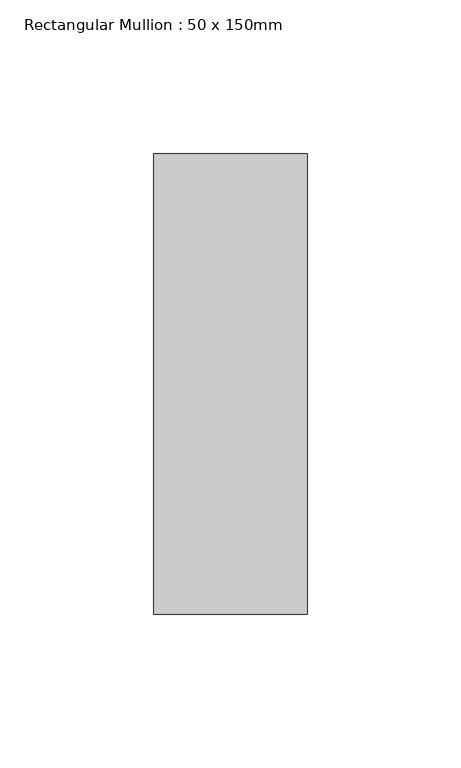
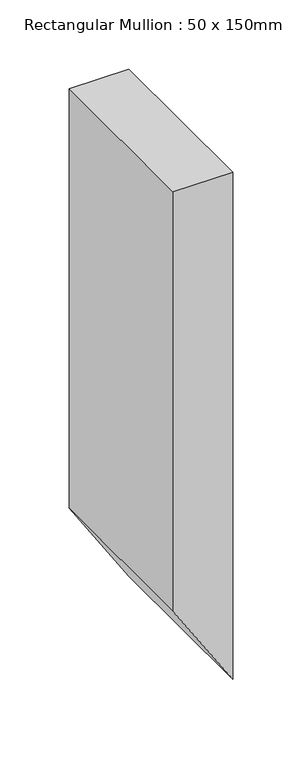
"""IFC4 building model written with IfcOpenShell, lengths in millimetres: member geometry, Rectangular Mullion : 50 x 150mm."""

import ifcopenshell
import ifcopenshell.guid

model = None  # the IFC model being written
_history = None  # IfcOwnerHistory: only IFC2X3 demands one
_inside = {}  # id of a spatial element -> (the spatial element, [elements in it])
_under = {}  # id of a project, library or spatial element -> (it, [spatial elements below it])
_declared = {}  # id of a project -> (the project, [libraries it declares])
_typed = {}  # id of a type object -> (the type object, [elements of that type])
_made_of = {}  # id of a material, layer set ... -> (it, [elements and type objects made of it])


def new_model(schema):
    """Start an empty IFC model of exactly this schema.

    Asked for "IFC4X3", IfcOpenShell would pick the latest addendum, in which some entities
    have other attributes; the version numbers below select the first issue.
    IFC2X3 requires an IfcOwnerHistory on every rooted entity: one is made here for all.
    """
    global model, _history
    if schema == "IFC4X3":
        model = ifcopenshell.file(schema_version=(4, 3, 0, 0))
    else:
        model = ifcopenshell.file(schema=schema)
    _inside.clear()
    _under.clear()
    _declared.clear()
    _typed.clear()
    _made_of.clear()
    _history = None
    if model.schema == "IFC2X3":
        org = make("IfcOrganization", Name="unknown")
        user = make(
            "IfcPersonAndOrganization",
            ThePerson=make("IfcPerson", FamilyName="unknown"),
            TheOrganization=org,
        )
        app = make(
            "IfcApplication",
            ApplicationDeveloper=org,
            Version="unknown",
            ApplicationFullName="unknown",
            ApplicationIdentifier="unknown",
        )
        _history = make(
            "IfcOwnerHistory",
            OwningUser=user,
            OwningApplication=app,
            ChangeAction="ADDED",
            CreationDate=0,
        )
    return model


def make(cls, **values):
    """One entity of the class cls with the attributes given. An attribute that is None is left unset."""
    return model.create_entity(
        cls, **{name: value for name, value in values.items() if value is not None}
    )


def rooted(cls, **values):
    """An entity with a GlobalId (a new one), such as an element, a storey or a relation."""
    return make(cls, GlobalId=ifcopenshell.guid.new(), OwnerHistory=_history, **values)


def si_unit(unit_type, name, prefix=None):
    """IfcSIUnit, for example si_unit("LENGTHUNIT", "METRE", prefix="MILLI")."""
    return make("IfcSIUnit", UnitType=unit_type, Prefix=prefix, Name=name)


def assignment(units):
    """IfcUnitAssignment: the units of a project."""
    return None if units is None else make("IfcUnitAssignment", Units=units)


def point(xyz):
    """IfcCartesianPoint."""
    return None if xyz is None else make("IfcCartesianPoint", Coordinates=xyz)


def direction(xyz):
    """IfcDirection."""
    return None if xyz is None else make("IfcDirection", DirectionRatios=xyz)


def frame(location, z_axis=None, x_axis=None):
    """IfcAxis2Placement3D, a coordinate frame: its origin and axes. An axis left out is left unset."""
    return make(
        "IfcAxis2Placement3D",
        Location=point(location),
        Axis=direction(z_axis),
        RefDirection=direction(x_axis),
    )


def origin():
    """The frame at (0, 0, 0) with its axes left unset."""
    return frame((0.0, 0.0, 0.0))


def place(relative_to, where):
    """IfcLocalPlacement: puts the frame where relative to a parent placement (None: the world)."""
    return make(
        "IfcLocalPlacement", PlacementRelTo=relative_to, RelativePlacement=where
    )


def context(
    kind, dimensions, precision=None, world=None, true_north=None, identifier=None
):
    """IfcGeometricRepresentationContext, for example the 3D "Model" context."""
    return make(
        "IfcGeometricRepresentationContext",
        ContextIdentifier=identifier,
        ContextType=kind,
        CoordinateSpaceDimension=dimensions,
        Precision=precision,
        WorldCoordinateSystem=world,
        TrueNorth=true_north,
    )


def project(units=None, contexts=None):
    """IfcProject with its units and contexts."""
    return rooted(
        "IfcProject",
        Name="project",
        RepresentationContexts=contexts,
        UnitsInContext=assignment(units),
    )


def spatial(cls, under=None, at=None, **own):
    """A site, building, storey or space (cls), placed at a placement, below another one or the project."""
    s = rooted(cls, ObjectPlacement=at, **own)
    if under is not None:
        _under.setdefault(under.id(), (under, []))[1].append(s)
    return s


def polyline(points):
    """IfcPolyline through the points."""
    return make("IfcPolyline", Points=[point(p) for p in points])


def outline(outer, holes=None, kind="AREA"):
    """IfcArbitraryClosedProfileDef: a profile drawn as a closed curve; with holes, ...WithVoids."""
    if holes is None:
        return make("IfcArbitraryClosedProfileDef", ProfileType=kind, OuterCurve=outer)
    return make(
        "IfcArbitraryProfileDefWithVoids",
        ProfileType=kind,
        OuterCurve=outer,
        InnerCurves=holes,
    )


def extrude(swept, where, along, depth):
    """IfcExtrudedAreaSolid: the profile swept, set in the frame where, extruded along a direction by depth."""
    return make(
        "IfcExtrudedAreaSolid",
        SweptArea=swept,
        Position=where,
        ExtrudedDirection=direction(along),
        Depth=depth,
    )


def shape(context_of_items, identifier, shape_type, items):
    """IfcShapeRepresentation: the items that make up one representation, for example the "Body"."""
    return make(
        "IfcShapeRepresentation",
        ContextOfItems=context_of_items,
        RepresentationIdentifier=identifier,
        RepresentationType=shape_type,
        Items=items,
    )


def source(mapping_origin, context_of_items, identifier, shape_type, items):
    """IfcRepresentationMap: a shape defined once, which mapped items show again and again."""
    return make(
        "IfcRepresentationMap",
        MappingOrigin=mapping_origin,
        MappedRepresentation=shape(context_of_items, identifier, shape_type, items),
    )


def transform(
    local_origin,
    x_axis=None,
    y_axis=None,
    z_axis=None,
    scale=None,
    scale2=None,
    scale3=None,
    uniform=True,
):
    """IfcCartesianTransformationOperator3D, or its non-uniform kind. x_axis, y_axis, z_axis: its Axis1, 2, 3."""
    if uniform:
        return make(
            "IfcCartesianTransformationOperator3D",
            Axis1=direction(x_axis),
            Axis2=direction(y_axis),
            LocalOrigin=point(local_origin),
            Scale=scale,
            Axis3=direction(z_axis),
        )
    return make(
        "IfcCartesianTransformationOperator3DnonUniform",
        Axis1=direction(x_axis),
        Axis2=direction(y_axis),
        LocalOrigin=point(local_origin),
        Scale=scale,
        Axis3=direction(z_axis),
        Scale2=scale2,
        Scale3=scale3,
    )


def mapped(mapping_source, mapping_target):
    """IfcMappedItem: shows the shape of a source again, moved by a transform."""
    return make(
        "IfcMappedItem", MappingSource=mapping_source, MappingTarget=mapping_target
    )


def made_of(thing, what):
    """Note that an element or type object is made of a material, layer set ...; save() writes the relation."""
    if what is not None:
        _made_of.setdefault(what.id(), (what, []))[1].append(thing)
    return thing


def element(
    cls,
    number,
    at=None,
    inside=None,
    cuts=None,
    type_object=None,
    material=None,
    context=None,
    identifier="Body",
    shape_type=None,
    held_by="IfcProductDefinitionShape",
    body=None,
    shapes=None,
    **own,
):
    """One element of the class cls, such as IfcWall. Its Tag is "e" and its number.

    at: its placement. inside: the storey or other place that contains it. cuts: it is an
    opening in that element (IfcRelVoidsElement). A single representation is given by context,
    identifier, shape_type and body (its items); several are given by shapes. held_by: the class
    of the entity that holds the representations. save() writes the other relations.
    """
    e = rooted(cls, Tag="e%d" % number, ObjectPlacement=at, **own)
    if body is not None:
        shapes = [shape(context, identifier, shape_type, body)]
    if shapes is not None:
        e.Representation = make(held_by, Representations=shapes)
    if inside is not None:
        _inside.setdefault(inside.id(), (inside, []))[1].append(e)
    if cuts is not None:
        rooted(
            "IfcRelVoidsElement", RelatingBuildingElement=cuts, RelatedOpeningElement=e
        )
    if type_object is not None:
        _typed.setdefault(type_object.id(), (type_object, []))[1].append(e)
    return made_of(e, material)


def aggregate(whole, parts):
    """IfcRelAggregates: a whole, such as a stair, and the parts it consists of."""
    return rooted("IfcRelAggregates", RelatingObject=whole, RelatedObjects=parts)


def save(model, path):
    """Write the relations noted so far, then the file.

    IfcRelAggregates (storeys below a building ...), IfcRelContainedInSpatialStructure (elements
    in a storey), IfcRelDefinesByType, IfcRelAssociatesMaterial and IfcRelDeclares: one each for
    every whole, place, type object, material and project.
    """
    for whole, parts in _under.values():
        aggregate(whole, parts)
    for where, things in _inside.values():
        rooted(
            "IfcRelContainedInSpatialStructure",
            RelatedElements=things,
            RelatingStructure=where,
        )
    for kind, things in _typed.values():
        rooted("IfcRelDefinesByType", RelatedObjects=things, RelatingType=kind)
    for what, things in _made_of.values():
        rooted("IfcRelAssociatesMaterial", RelatedObjects=things, RelatingMaterial=what)
    for by, libraries in _declared.values():
        rooted("IfcRelDeclares", RelatingContext=by, RelatedDefinitions=libraries)
    model.write(path)


def rectangular_mullion_50_x_150mm_b07a717a(model_context):
    return source(origin(), model_context, "Body", "SweptSolid", [
        extrude(outline(polyline([(0.0, 25.0), (0.0, -25.0), (-370.3486549, -25.0), (-447.6097598, 25.0), (0.0, 25.0)])), frame((0.0, -75.0, 0.0), z_axis=(0.0, 1.0, 0.0), x_axis=(0.0, 0.0, 1.0)), (0.0, 0.0, 1.0), 150.0),
    ])


if __name__ == "__main__":
    model = new_model("IFC4")
    model_context = context("Model", 3, world=origin())
    ifc_project = project(units=[si_unit("LENGTHUNIT", "METRE", prefix="MILLI")], contexts=[model_context])
    site = spatial("IfcSite", under=ifc_project)
    building = spatial("IfcBuilding", under=site)
    placement = place(None, origin())
    rectangular_mullion_50_x_150mm_shape = rectangular_mullion_50_x_150mm_b07a717a(model_context)
    element("IfcMember", 1, ObjectType="Rectangular Mullion : 50 x 150mm", at=placement, inside=building, context=model_context, shape_type="MappedRepresentation", body=[
        mapped(rectangular_mullion_50_x_150mm_shape, transform((0.0, 0.0, 0.0), x_axis=(1.0, 0.0, 0.0), y_axis=(0.0, 1.0, 0.0), z_axis=(0.0, 0.0, 1.0))),
    ])
    save(model, "model.ifc")
